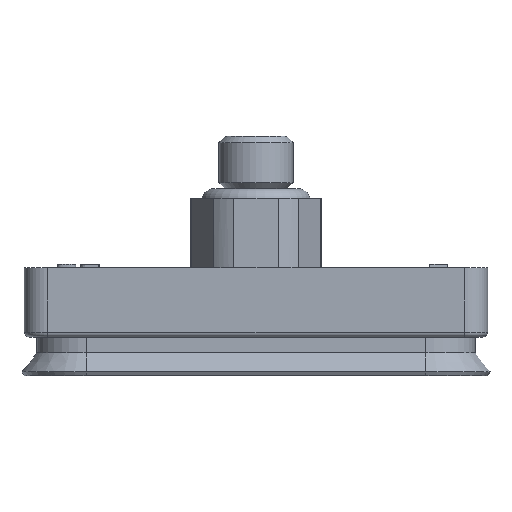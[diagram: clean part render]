
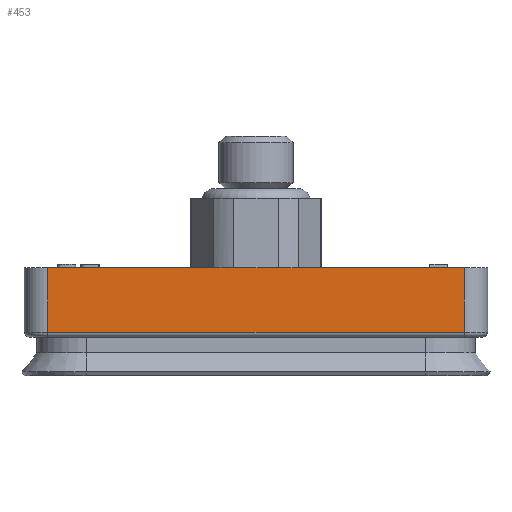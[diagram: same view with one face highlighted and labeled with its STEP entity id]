
A CAD part, front view. The second image highlights one B-rep face of the part: STEP entity #453.
In plain terms, the highlighted planar face has unit normal (0, -1, 0).
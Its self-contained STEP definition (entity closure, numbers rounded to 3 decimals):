
#453 = ADVANCED_FACE( '', ( #957 ), #958, .T. );
#957 = FACE_OUTER_BOUND( '', #1556, .T. );
#958 = PLANE( '', #1557 );
#1556 = EDGE_LOOP( '', ( #3127, #3128, #3129, #3130, #3131, #3132 ) );
#1557 = AXIS2_PLACEMENT_3D( '', #3133, #3134, #3135 );
#3127 = ORIENTED_EDGE( '', *, *, #3670, .F. );
#3128 = ORIENTED_EDGE( '', *, *, #3657, .T. );
#3129 = ORIENTED_EDGE( '', *, *, #3569, .T. );
#3130 = ORIENTED_EDGE( '', *, *, #3866, .F. );
#3131 = ORIENTED_EDGE( '', *, *, #3483, .F. );
#3132 = ORIENTED_EDGE( '', *, *, #3786, .F. );
#3133 = CARTESIAN_POINT( '', ( -13.5, -3.5, -6. ) );
#3134 = DIRECTION( '', ( 0., -1., 0. ) );
#3135 = DIRECTION( '', ( 0., 0., -1. ) );
#3483 = EDGE_CURVE( '', #4091, #4094, #4095, .T. );
#3569 = EDGE_CURVE( '', #4238, #4239, #4240, .T. );
#3657 = EDGE_CURVE( '', #4371, #4238, #4377, .T. );
#3670 = EDGE_CURVE( '', #4371, #4393, #4394, .T. );
#3786 = EDGE_CURVE( '', #4393, #4091, #4555, .T. );
#3866 = EDGE_CURVE( '', #4094, #4239, #4651, .T. );
#4091 = VERTEX_POINT( '', #5048 );
#4094 = VERTEX_POINT( '', #5051 );
#4095 = LINE( '', #5052, #5053 );
#4238 = VERTEX_POINT( '', #5322 );
#4239 = VERTEX_POINT( '', #5323 );
#4240 = LINE( '', #5324, #5325 );
#4371 = VERTEX_POINT( '', #5607 );
#4377 = LINE( '', #5615, #5616 );
#4393 = VERTEX_POINT( '', #5638 );
#4394 = LINE( '', #5639, #5640 );
#4555 = LINE( '', #6132, #6133 );
#4651 = LINE( '', #6374, #6375 );
#5048 = CARTESIAN_POINT( '', ( -2.411, -3.5, -1.5 ) );
#5051 = CARTESIAN_POINT( '', ( 2.411, -3.5, -1.5 ) );
#5052 = CARTESIAN_POINT( '', ( -13.5, -3.5, -1.5 ) );
#5053 = VECTOR( '', #6545, 1000. );
#5322 = CARTESIAN_POINT( '', ( 13.5, -3.5, -5.7 ) );
#5323 = CARTESIAN_POINT( '', ( 13.5, -3.5, -1.5 ) );
#5324 = CARTESIAN_POINT( '', ( 13.5, -3.5, -6. ) );
#5325 = VECTOR( '', #6620, 1000. );
#5607 = CARTESIAN_POINT( '', ( -13.5, -3.5, -5.7 ) );
#5615 = CARTESIAN_POINT( '', ( 13.5, -3.5, -5.7 ) );
#5616 = VECTOR( '', #6713, 1000. );
#5638 = CARTESIAN_POINT( '', ( -13.5, -3.5, -1.5 ) );
#5639 = CARTESIAN_POINT( '', ( -13.5, -3.5, -6. ) );
#5640 = VECTOR( '', #6725, 1000. );
#6132 = CARTESIAN_POINT( '', ( -13.5, -3.5, -1.5 ) );
#6133 = VECTOR( '', #6788, 1000. );
#6374 = CARTESIAN_POINT( '', ( -13.5, -3.5, -1.5 ) );
#6375 = VECTOR( '', #6832, 1000. );
#6545 = DIRECTION( '', ( 1., 0., 0. ) );
#6620 = DIRECTION( '', ( 0., 0., 1. ) );
#6713 = DIRECTION( '', ( 1., 0., 0. ) );
#6725 = DIRECTION( '', ( 0., 0., 1. ) );
#6788 = DIRECTION( '', ( 1., 0., 0. ) );
#6832 = DIRECTION( '', ( 1., 0., 0. ) );
